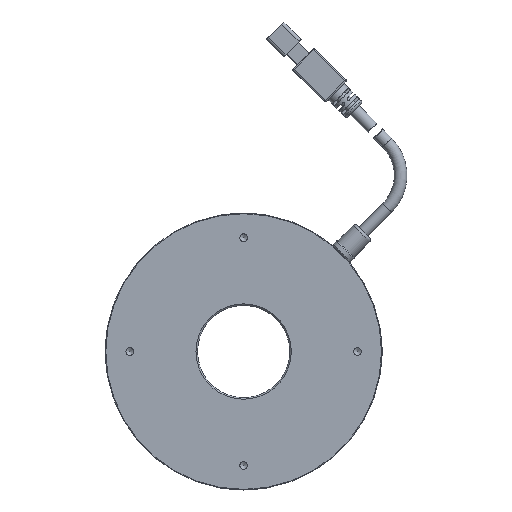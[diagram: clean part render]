
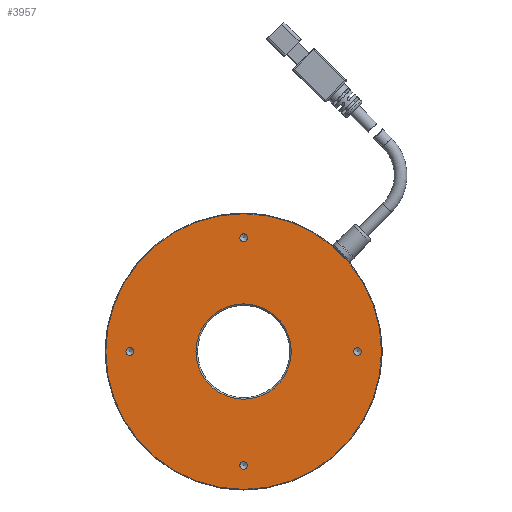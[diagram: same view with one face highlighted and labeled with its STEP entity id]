
A CAD part, front view. The second image highlights one B-rep face of the part: STEP entity #3957.
In plain terms, the highlighted planar face has unit normal (0, -1, 0).
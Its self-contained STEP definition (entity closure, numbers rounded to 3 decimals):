
#94 = EDGE_LOOP ( 'NONE', ( #7882 ) ) ;
#384 = ORIENTED_EDGE ( 'NONE', *, *, #2294, .F. ) ;
#570 = CIRCLE ( 'NONE', #1658, 1.25 ) ;
#779 = DIRECTION ( 'NONE',  ( 0., -1., 0. ) ) ;
#1044 = VERTEX_POINT ( 'NONE', #2164 ) ;
#1187 = CARTESIAN_POINT ( 'NONE',  ( 0., 0., 44.8 ) ) ;
#1303 = VERTEX_POINT ( 'NONE', #6470 ) ;
#1558 = DIRECTION ( 'NONE',  ( 0., 0., 1. ) ) ;
#1640 = CARTESIAN_POINT ( 'NONE',  ( 0., 0., -37. ) ) ;
#1658 = AXIS2_PLACEMENT_3D ( 'NONE', #8817, #5346, #7974 ) ;
#1934 = ORIENTED_EDGE ( 'NONE', *, *, #11105, .F. ) ;
#2125 = EDGE_LOOP ( 'NONE', ( #6393 ) ) ;
#2164 = CARTESIAN_POINT ( 'NONE',  ( -37., 0., -1.25 ) ) ;
#2294 = EDGE_CURVE ( 'NONE', #9174, #9174, #4540, .T. ) ;
#2402 = VERTEX_POINT ( 'NONE', #10860 ) ;
#2587 = DIRECTION ( 'NONE',  ( 0., 0., -1. ) ) ;
#2793 = CIRCLE ( 'NONE', #8003, 1.25 ) ;
#2945 = FACE_BOUND ( 'NONE', #6761, .T. ) ;
#3639 = EDGE_CURVE ( 'NONE', #10941, #10941, #4905, .T. ) ;
#3720 = PLANE ( 'NONE',  #6156 ) ;
#3957 = ADVANCED_FACE ( 'NONE', ( #10966, #6702, #8531, #2945, #8396, #6243 ), #3720, .F. ) ;
#4199 = DIRECTION ( 'NONE',  ( 0., 0., 1. ) ) ;
#4540 = CIRCLE ( 'NONE', #10916, 1.25 ) ;
#4595 = CARTESIAN_POINT ( 'NONE',  ( 0., 0., -38.25 ) ) ;
#4667 = AXIS2_PLACEMENT_3D ( 'NONE', #5446, #6383, #9822 ) ;
#4878 = DIRECTION ( 'NONE',  ( 0., 0., -1. ) ) ;
#4905 = CIRCLE ( 'NONE', #5576, 44.8 ) ;
#5346 = DIRECTION ( 'NONE',  ( 0., -1., 0. ) ) ;
#5446 = CARTESIAN_POINT ( 'NONE',  ( 0., 0., 37. ) ) ;
#5471 = CARTESIAN_POINT ( 'NONE',  ( -45., 0., 0. ) ) ;
#5576 = AXIS2_PLACEMENT_3D ( 'NONE', #6769, #779, #1558 ) ;
#5614 = DIRECTION ( 'NONE',  ( 0., 0., 1. ) ) ;
#5753 = CARTESIAN_POINT ( 'NONE',  ( 37., 0., -1.25 ) ) ;
#6156 = AXIS2_PLACEMENT_3D ( 'NONE', #5471, #9049, #5614 ) ;
#6243 = FACE_BOUND ( 'NONE', #7937, .T. ) ;
#6383 = DIRECTION ( 'NONE',  ( 0., -1., 0. ) ) ;
#6393 = ORIENTED_EDGE ( 'NONE', *, *, #6801, .F. ) ;
#6470 = CARTESIAN_POINT ( 'NONE',  ( 0., 0., 15.5 ) ) ;
#6702 = FACE_OUTER_BOUND ( 'NONE', #9811, .T. ) ;
#6757 = CARTESIAN_POINT ( 'NONE',  ( 0., 0., 0. ) ) ;
#6761 = EDGE_LOOP ( 'NONE', ( #1934 ) ) ;
#6769 = CARTESIAN_POINT ( 'NONE',  ( 0., 0., 0. ) ) ;
#6801 = EDGE_CURVE ( 'NONE', #2402, #2402, #7367, .T. ) ;
#6834 = CARTESIAN_POINT ( 'NONE',  ( 37., 0., 0. ) ) ;
#6919 = DIRECTION ( 'NONE',  ( 0., -1., 0. ) ) ;
#7367 = CIRCLE ( 'NONE', #4667, 1.25 ) ;
#7379 = DIRECTION ( 'NONE',  ( 0., -1., 0. ) ) ;
#7824 = EDGE_CURVE ( 'NONE', #1303, #1303, #10628, .T. ) ;
#7882 = ORIENTED_EDGE ( 'NONE', *, *, #7824, .T. ) ;
#7937 = EDGE_LOOP ( 'NONE', ( #10285 ) ) ;
#7974 = DIRECTION ( 'NONE',  ( 0., 0., -1. ) ) ;
#8003 = AXIS2_PLACEMENT_3D ( 'NONE', #6834, #6919, #2587 ) ;
#8014 = ORIENTED_EDGE ( 'NONE', *, *, #3639, .T. ) ;
#8396 = FACE_BOUND ( 'NONE', #10366, .T. ) ;
#8497 = DIRECTION ( 'NONE',  ( 0., 1., 0. ) ) ;
#8531 = FACE_BOUND ( 'NONE', #2125, .T. ) ;
#8740 = EDGE_CURVE ( 'NONE', #1044, #1044, #570, .T. ) ;
#8817 = CARTESIAN_POINT ( 'NONE',  ( -37., 0., 0. ) ) ;
#9049 = DIRECTION ( 'NONE',  ( 0., 1., 0. ) ) ;
#9174 = VERTEX_POINT ( 'NONE', #4595 ) ;
#9811 = EDGE_LOOP ( 'NONE', ( #8014 ) ) ;
#9822 = DIRECTION ( 'NONE',  ( 0., 0., -1. ) ) ;
#10285 = ORIENTED_EDGE ( 'NONE', *, *, #8740, .F. ) ;
#10366 = EDGE_LOOP ( 'NONE', ( #384 ) ) ;
#10602 = AXIS2_PLACEMENT_3D ( 'NONE', #6757, #8497, #4199 ) ;
#10628 = CIRCLE ( 'NONE', #10602, 15.5 ) ;
#10690 = VERTEX_POINT ( 'NONE', #5753 ) ;
#10860 = CARTESIAN_POINT ( 'NONE',  ( 0., 0., 35.75 ) ) ;
#10916 = AXIS2_PLACEMENT_3D ( 'NONE', #1640, #7379, #4878 ) ;
#10941 = VERTEX_POINT ( 'NONE', #1187 ) ;
#10966 = FACE_BOUND ( 'NONE', #94, .T. ) ;
#11105 = EDGE_CURVE ( 'NONE', #10690, #10690, #2793, .T. ) ;
